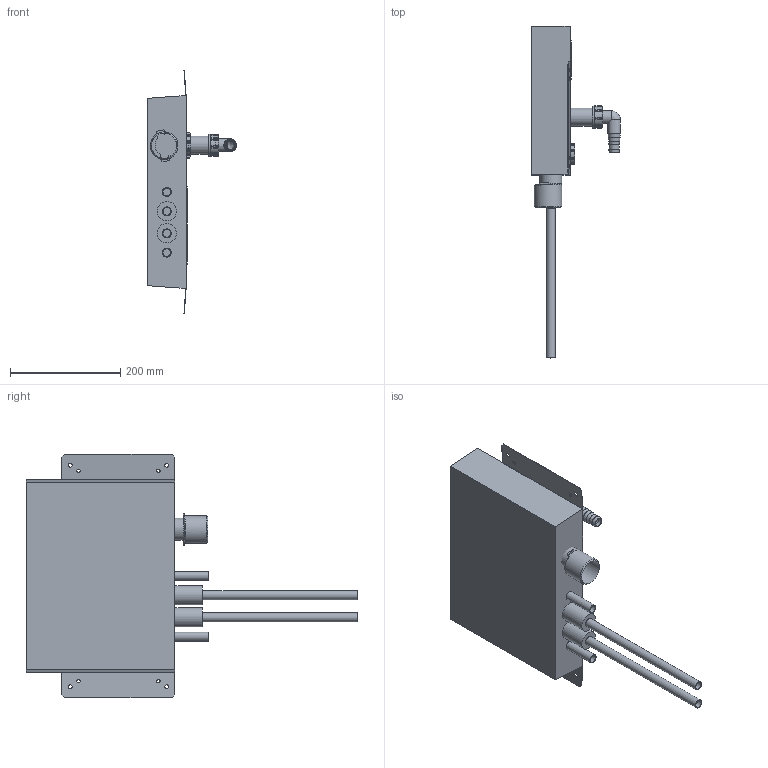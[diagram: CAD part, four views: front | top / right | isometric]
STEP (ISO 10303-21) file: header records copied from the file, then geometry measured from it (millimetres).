
FILE_DESCRIPTION(/* description */ (''),/* implementation_level */ '2;1');
FILE_NAME(/* name */ '\\LG50011\SANHA_Legnica\Engineering\Public\PROJEKTY\SANHA-BOX_Support_BiR\002-Rysunki_Boxów\325WMZT\325WMZT.stp',/* time_stamp */ '2018-11-05T14:37:00+01:00',/* author */ ('gomulka'),/* organization */ (''),/* preprocessor_version */ 'ST-DEVELOPER v16.13',/* originating_system */ 'Autodesk Inventor 2018',/* authorisation */ '');
FILE_SCHEMA (('AUTOMOTIVE_DESIGN { 1 0 10303 214 3 1 1 }'));
Length unit declared in the file: millimetre
Products named in the file (11): 325WMZT; 325WMZT_1; Geratedose; Rura_16x2-bardzo_krotka; Rura_16x2-krotka; króciec-mimośr; króciec-gwintowany; nakrętka; króciec; nakrętka_2; KSBMPDW1
Assembly tree (14 placements, depth 2):
  325WMZT
    325WMZT_1
    Geratedose  x2
    Rura_16x2-bardzo_krotka  x2
    Rura_16x2-krotka  x2
    króciec-mimośr
    króciec-gwintowany
    nakrętka
    króciec
    nakrętka_2
    KSBMPDW1  x2
Bounding box: 161.44 x 601.9 x 441.77 mm (x, y, z)
Volume: 6417009.2 mm3; surface area: 581303.9 mm2
Topology: 14 solids, 14 shells, 440 faces, 1025 edges, 642 vertices
Faces by surface type: plane 343, cylinder 62, bspline 18, torus 10, cone 7
Full cylindrical faces by diameter (mm): 6.1 x4, 7 x4, 14 x4, 15 x1, 16 x9, 18.3 x2, 18.631 x1, 21 x1, 23 x2, 27 x2, 27.5 x1, 30 x2, 32.8 x1, 33 x1, 35 x2, 37.5 x2, 38.5 x1, 40 x2, 46 x1, 50 x1, 53 x1, 63 x1
Entity records: 11336 total; most frequent: CARTESIAN_POINT 2127, DIRECTION 1822, ORIENTED_EDGE 1734, EDGE_CURVE 847, AXIS2_PLACEMENT_3D 616, LINE 590, VECTOR 590, VERTEX_POINT 561
